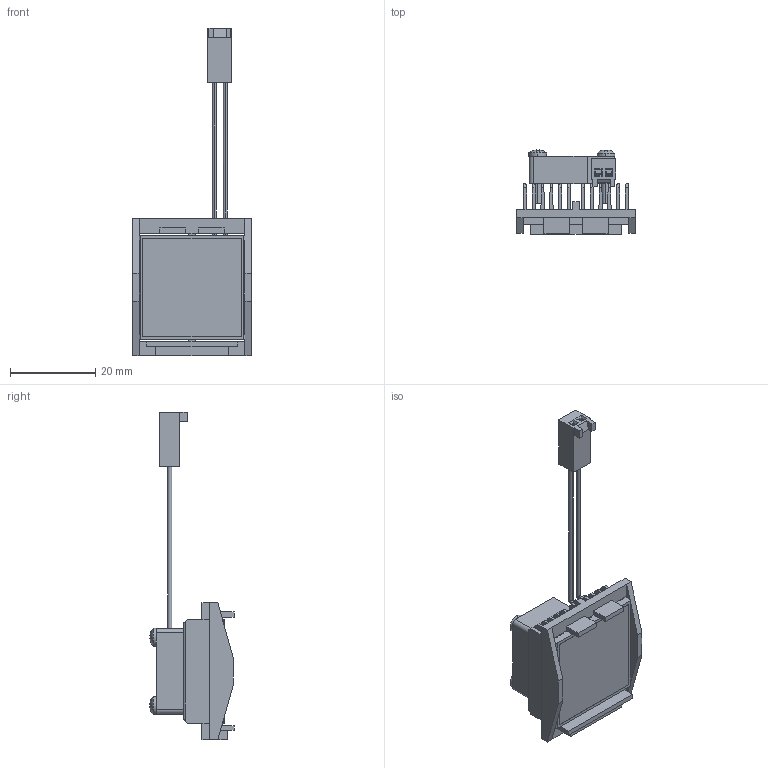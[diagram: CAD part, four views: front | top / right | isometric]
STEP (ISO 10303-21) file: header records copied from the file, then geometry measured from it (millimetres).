
FILE_DESCRIPTION (( 'STEP AP214' ), '1' );
FILE_NAME ('FI25-1.7+Y.STEP', '2023-03-21T23:29:36', ( '' ), ( '' ), 'SwSTEP 2.0', 'SolidWorks 2020', '' );
FILE_SCHEMA (( 'AUTOMOTIVE_DESIGN' ));
Length unit declared in the file: millimetre
Products named in the file (1): FI25-1.7+Y
Bounding box: 27.7 x 19.68 x 76.75 mm (x, y, z)
Volume: 5730.7 mm3; surface area: 12120.9 mm2
Topology: 7 solids, 7 shells, 414 faces, 1146 edges, 739 vertices
Faces by surface type: plane 247, cylinder 116, bspline 48, sphere 3
Entity records: 19313 total; most frequent: CARTESIAN_POINT 4567, ORIENTED_EDGE 2242, DIRECTION 1875, EDGE_CURVE 1121, LINE 755, VECTOR 755, VERTEX_POINT 736, AXIS2_PLACEMENT_3D 560
